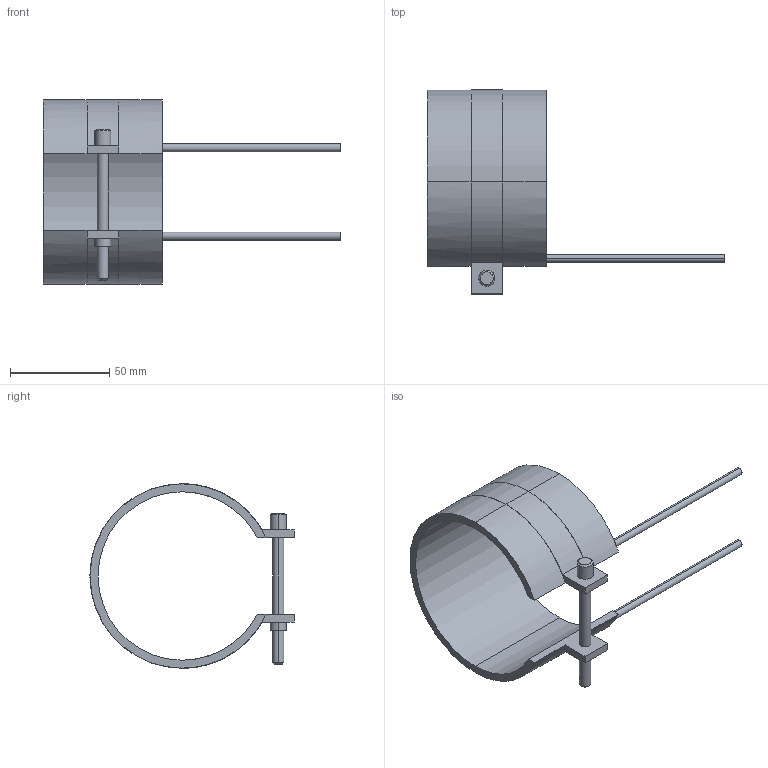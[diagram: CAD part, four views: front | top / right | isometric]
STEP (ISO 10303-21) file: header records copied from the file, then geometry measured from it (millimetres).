
FILE_DESCRIPTION(('CATIA V5 STEP Exchange'),'2;1');
FILE_NAME('C:\Users\Utente\Desktop\IO LAVORO\3D X SITO CF\X SITO\PLASTICA\RF2\14085060.stp','2021-04-06T16:14:54+00:00',('none'),('none'),'CATIA Version 5 Release 20 GA (IN-10)','CATIA V5 STEP AP203','none');
FILE_SCHEMA(('CONFIG_CONTROL_DESIGN'));
Length unit declared in the file: millimetre
Products named in the file (1): 14085060
Bounding box: 150 x 103.1 x 93.2 mm (x, y, z)
Volume: 64188.5 mm3; surface area: 35983.6 mm2
Topology: 1 solids, 1 shells, 45 faces, 116 edges, 76 vertices
Faces by surface type: cylinder 24, plane 17, cone 4
Entity records: 1418 total; most frequent: CARTESIAN_POINT 296, ORIENTED_EDGE 232, DIRECTION 194, EDGE_CURVE 116, AXIS2_PLACEMENT_3D 102, VERTEX_POINT 76, CIRCLE 60, VECTOR 52
